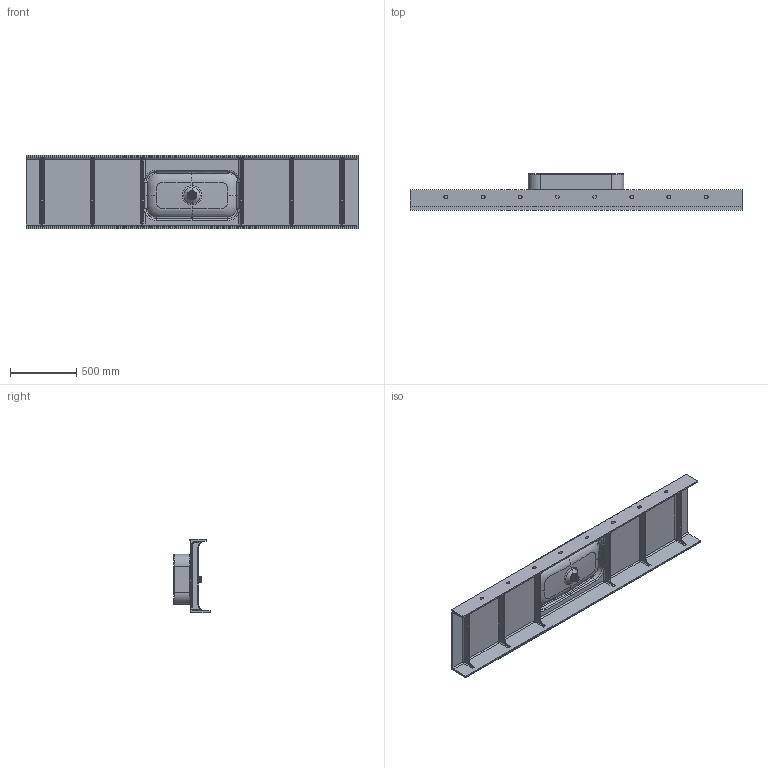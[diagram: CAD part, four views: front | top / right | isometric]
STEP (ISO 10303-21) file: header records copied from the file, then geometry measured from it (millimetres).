
FILE_DESCRIPTION (( 'STEP AP203' ), '1' );
FILE_NAME ('SOFT700x360x125_M.STEP', '2022-09-29T08:47:02', ( '' ), ( '' ), 'SwSTEP 2.0', 'SolidWorks 2020', '' );
FILE_SCHEMA (( 'CONFIG_CONTROL_DESIGN' ));
Products named in the file (1): SOFT700x360x125_M
Bounding box: 2500 x 275 x 550 mm (x, y, z)
Volume: 32726098.5 mm3; surface area: 4838281 mm2
Topology: 8 solids, 8 shells, 631 faces, 1660 edges, 1015 vertices
Faces by surface type: cylinder 266, bspline 145, plane 123, torus 53, cone 36, sphere 8
Entity records: 71533 total; most frequent: CARTESIAN_POINT 57419, ORIENTED_EDGE 3272, DIRECTION 2636, EDGE_CURVE 1636, AXIS2_PLACEMENT_3D 1021, VERTEX_POINT 1015, EDGE_LOOP 679, ADVANCED_FACE 631
